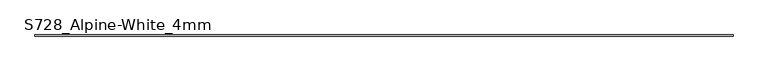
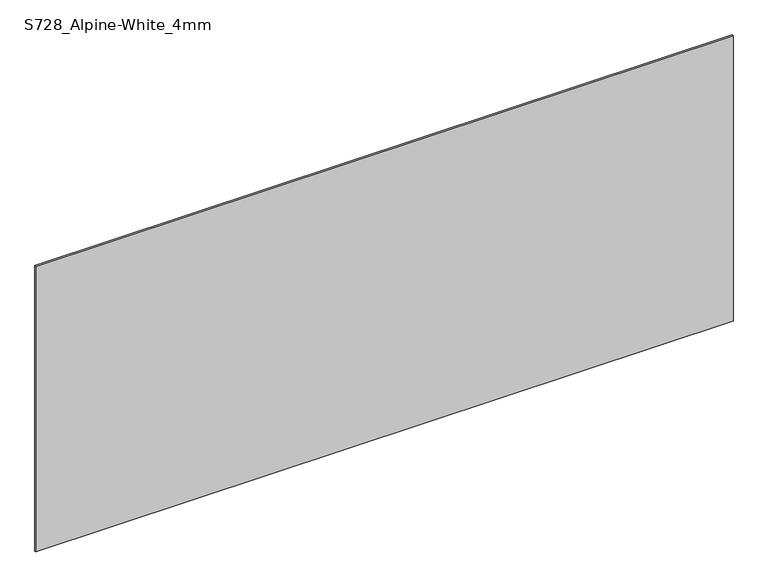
"""IFC4 building model written with IfcOpenShell, lengths in millimetres: plate geometry, Curtain-Panels_Outdoor-Material_HI-MACS_Solids : S728_Alpine-White_4mm."""

import ifcopenshell
import ifcopenshell.guid

model = None  # the IFC model being written
_history = None  # IfcOwnerHistory: only IFC2X3 demands one
_inside = {}  # id of a spatial element -> (the spatial element, [elements in it])
_under = {}  # id of a project, library or spatial element -> (it, [spatial elements below it])
_declared = {}  # id of a project -> (the project, [libraries it declares])
_typed = {}  # id of a type object -> (the type object, [elements of that type])
_made_of = {}  # id of a material, layer set ... -> (it, [elements and type objects made of it])


def new_model(schema):
    """Start an empty IFC model of exactly this schema.

    Asked for "IFC4X3", IfcOpenShell would pick the latest addendum, in which some entities
    have other attributes; the version numbers below select the first issue.
    IFC2X3 requires an IfcOwnerHistory on every rooted entity: one is made here for all.
    """
    global model, _history
    if schema == "IFC4X3":
        model = ifcopenshell.file(schema_version=(4, 3, 0, 0))
    else:
        model = ifcopenshell.file(schema=schema)
    _inside.clear()
    _under.clear()
    _declared.clear()
    _typed.clear()
    _made_of.clear()
    _history = None
    if model.schema == "IFC2X3":
        org = make("IfcOrganization", Name="unknown")
        user = make(
            "IfcPersonAndOrganization",
            ThePerson=make("IfcPerson", FamilyName="unknown"),
            TheOrganization=org,
        )
        app = make(
            "IfcApplication",
            ApplicationDeveloper=org,
            Version="unknown",
            ApplicationFullName="unknown",
            ApplicationIdentifier="unknown",
        )
        _history = make(
            "IfcOwnerHistory",
            OwningUser=user,
            OwningApplication=app,
            ChangeAction="ADDED",
            CreationDate=0,
        )
    return model


def make(cls, **values):
    """One entity of the class cls with the attributes given. An attribute that is None is left unset."""
    return model.create_entity(
        cls, **{name: value for name, value in values.items() if value is not None}
    )


def rooted(cls, **values):
    """An entity with a GlobalId (a new one), such as an element, a storey or a relation."""
    return make(cls, GlobalId=ifcopenshell.guid.new(), OwnerHistory=_history, **values)


def si_unit(unit_type, name, prefix=None):
    """IfcSIUnit, for example si_unit("LENGTHUNIT", "METRE", prefix="MILLI")."""
    return make("IfcSIUnit", UnitType=unit_type, Prefix=prefix, Name=name)


def assignment(units):
    """IfcUnitAssignment: the units of a project."""
    return None if units is None else make("IfcUnitAssignment", Units=units)


def point(xyz):
    """IfcCartesianPoint."""
    return None if xyz is None else make("IfcCartesianPoint", Coordinates=xyz)


def direction(xyz):
    """IfcDirection."""
    return None if xyz is None else make("IfcDirection", DirectionRatios=xyz)


def frame(location, z_axis=None, x_axis=None):
    """IfcAxis2Placement3D, a coordinate frame: its origin and axes. An axis left out is left unset."""
    return make(
        "IfcAxis2Placement3D",
        Location=point(location),
        Axis=direction(z_axis),
        RefDirection=direction(x_axis),
    )


def origin():
    """The frame at (0, 0, 0) with its axes left unset."""
    return frame((0.0, 0.0, 0.0))


def origin_with_axes():
    """The frame at (0, 0, 0) with the z axis (0, 0, 1) and the x axis (1, 0, 0) written out."""
    return frame((0.0, 0.0, 0.0), z_axis=(0.0, 0.0, 1.0), x_axis=(1.0, 0.0, 0.0))


def place(relative_to, where):
    """IfcLocalPlacement: puts the frame where relative to a parent placement (None: the world)."""
    return make(
        "IfcLocalPlacement", PlacementRelTo=relative_to, RelativePlacement=where
    )


def context(
    kind, dimensions, precision=None, world=None, true_north=None, identifier=None
):
    """IfcGeometricRepresentationContext, for example the 3D "Model" context."""
    return make(
        "IfcGeometricRepresentationContext",
        ContextIdentifier=identifier,
        ContextType=kind,
        CoordinateSpaceDimension=dimensions,
        Precision=precision,
        WorldCoordinateSystem=world,
        TrueNorth=true_north,
    )


def project(units=None, contexts=None):
    """IfcProject with its units and contexts."""
    return rooted(
        "IfcProject",
        Name="project",
        RepresentationContexts=contexts,
        UnitsInContext=assignment(units),
    )


def spatial(cls, under=None, at=None, **own):
    """A site, building, storey or space (cls), placed at a placement, below another one or the project."""
    s = rooted(cls, ObjectPlacement=at, **own)
    if under is not None:
        _under.setdefault(under.id(), (under, []))[1].append(s)
    return s


def polyline(points):
    """IfcPolyline through the points."""
    return make("IfcPolyline", Points=[point(p) for p in points])


def outline(outer, holes=None, kind="AREA"):
    """IfcArbitraryClosedProfileDef: a profile drawn as a closed curve; with holes, ...WithVoids."""
    if holes is None:
        return make("IfcArbitraryClosedProfileDef", ProfileType=kind, OuterCurve=outer)
    return make(
        "IfcArbitraryProfileDefWithVoids",
        ProfileType=kind,
        OuterCurve=outer,
        InnerCurves=holes,
    )


def extrude(swept, where, along, depth):
    """IfcExtrudedAreaSolid: the profile swept, set in the frame where, extruded along a direction by depth."""
    return make(
        "IfcExtrudedAreaSolid",
        SweptArea=swept,
        Position=where,
        ExtrudedDirection=direction(along),
        Depth=depth,
    )


def shape(context_of_items, identifier, shape_type, items):
    """IfcShapeRepresentation: the items that make up one representation, for example the "Body"."""
    return make(
        "IfcShapeRepresentation",
        ContextOfItems=context_of_items,
        RepresentationIdentifier=identifier,
        RepresentationType=shape_type,
        Items=items,
    )


def source(mapping_origin, context_of_items, identifier, shape_type, items):
    """IfcRepresentationMap: a shape defined once, which mapped items show again and again."""
    return make(
        "IfcRepresentationMap",
        MappingOrigin=mapping_origin,
        MappedRepresentation=shape(context_of_items, identifier, shape_type, items),
    )


def transform(
    local_origin,
    x_axis=None,
    y_axis=None,
    z_axis=None,
    scale=None,
    scale2=None,
    scale3=None,
    uniform=True,
):
    """IfcCartesianTransformationOperator3D, or its non-uniform kind. x_axis, y_axis, z_axis: its Axis1, 2, 3."""
    if uniform:
        return make(
            "IfcCartesianTransformationOperator3D",
            Axis1=direction(x_axis),
            Axis2=direction(y_axis),
            LocalOrigin=point(local_origin),
            Scale=scale,
            Axis3=direction(z_axis),
        )
    return make(
        "IfcCartesianTransformationOperator3DnonUniform",
        Axis1=direction(x_axis),
        Axis2=direction(y_axis),
        LocalOrigin=point(local_origin),
        Scale=scale,
        Axis3=direction(z_axis),
        Scale2=scale2,
        Scale3=scale3,
    )


def mapped(mapping_source, mapping_target):
    """IfcMappedItem: shows the shape of a source again, moved by a transform."""
    return make(
        "IfcMappedItem", MappingSource=mapping_source, MappingTarget=mapping_target
    )


def made_of(thing, what):
    """Note that an element or type object is made of a material, layer set ...; save() writes the relation."""
    if what is not None:
        _made_of.setdefault(what.id(), (what, []))[1].append(thing)
    return thing


def element(
    cls,
    number,
    at=None,
    inside=None,
    cuts=None,
    type_object=None,
    material=None,
    context=None,
    identifier="Body",
    shape_type=None,
    held_by="IfcProductDefinitionShape",
    body=None,
    shapes=None,
    **own,
):
    """One element of the class cls, such as IfcWall. Its Tag is "e" and its number.

    at: its placement. inside: the storey or other place that contains it. cuts: it is an
    opening in that element (IfcRelVoidsElement). A single representation is given by context,
    identifier, shape_type and body (its items); several are given by shapes. held_by: the class
    of the entity that holds the representations. save() writes the other relations.
    """
    e = rooted(cls, Tag="e%d" % number, ObjectPlacement=at, **own)
    if body is not None:
        shapes = [shape(context, identifier, shape_type, body)]
    if shapes is not None:
        e.Representation = make(held_by, Representations=shapes)
    if inside is not None:
        _inside.setdefault(inside.id(), (inside, []))[1].append(e)
    if cuts is not None:
        rooted(
            "IfcRelVoidsElement", RelatingBuildingElement=cuts, RelatedOpeningElement=e
        )
    if type_object is not None:
        _typed.setdefault(type_object.id(), (type_object, []))[1].append(e)
    return made_of(e, material)


def aggregate(whole, parts):
    """IfcRelAggregates: a whole, such as a stair, and the parts it consists of."""
    return rooted("IfcRelAggregates", RelatingObject=whole, RelatedObjects=parts)


def save(model, path):
    """Write the relations noted so far, then the file.

    IfcRelAggregates (storeys below a building ...), IfcRelContainedInSpatialStructure (elements
    in a storey), IfcRelDefinesByType, IfcRelAssociatesMaterial and IfcRelDeclares: one each for
    every whole, place, type object, material and project.
    """
    for whole, parts in _under.values():
        aggregate(whole, parts)
    for where, things in _inside.values():
        rooted(
            "IfcRelContainedInSpatialStructure",
            RelatedElements=things,
            RelatingStructure=where,
        )
    for kind, things in _typed.values():
        rooted("IfcRelDefinesByType", RelatedObjects=things, RelatingType=kind)
    for what, things in _made_of.values():
        rooted("IfcRelAssociatesMaterial", RelatedObjects=things, RelatingMaterial=what)
    for by, libraries in _declared.values():
        rooted("IfcRelDeclares", RelatingContext=by, RelatedDefinitions=libraries)
    model.write(path)


def s728_alpine_white_4mm_1b3d9704(model_context):
    return source(origin(), model_context, "Body", "SweptSolid", [
        extrude(outline(polyline([(1245.0, 2.0), (1245.0, -2.0), (-1245.0, -2.0), (-1245.0, 2.0), (1245.0, 2.0)])), origin_with_axes(), (0.0, 0.0, 1.0), 1078.1288393),
    ])


if __name__ == "__main__":
    model = new_model("IFC4")
    model_context = context("Model", 3, world=origin())
    ifc_project = project(units=[si_unit("LENGTHUNIT", "METRE", prefix="MILLI")], contexts=[model_context])
    site = spatial("IfcSite", under=ifc_project)
    building = spatial("IfcBuilding", under=site)
    placement = place(None, origin())
    s728_alpine_white_4mm_shape = s728_alpine_white_4mm_1b3d9704(model_context)
    element("IfcPlate", 1, ObjectType="Curtain-Panels_Outdoor-Material_HI-MACS_Solids : S728_Alpine-White_4mm", at=placement, inside=building, context=model_context, shape_type="MappedRepresentation", body=[
        mapped(s728_alpine_white_4mm_shape, transform((0.0, 0.0, 0.0), x_axis=(1.0, 0.0, 0.0), y_axis=(0.0, 1.0, 0.0), z_axis=(0.0, 0.0, 1.0))),
    ])
    save(model, "model.ifc")
